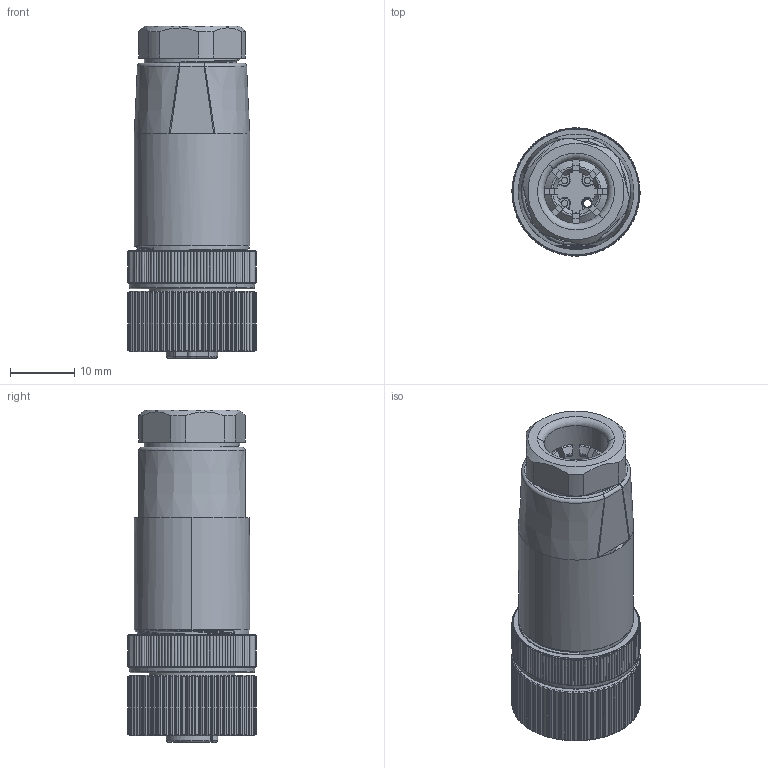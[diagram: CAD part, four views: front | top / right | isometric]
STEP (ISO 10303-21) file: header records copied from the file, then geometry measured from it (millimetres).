
FILE_DESCRIPTION((''),'2;1');
FILE_NAME('XC-M12-WK-PG9','2025-06-21T09:38:00',('lyj'),(''),'CREO PARAMETRIC BY PTC INC, 2019010','CREO PARAMETRIC BY PTC INC, 2019010','');
FILE_SCHEMA(('CONFIG_CONTROL_DESIGN'));
Products named in the file (1): XC-M12-WK-PG9
Bounding box: 20 x 20 x 51.82 mm (x, y, z)
Volume: 8561.3 mm3; surface area: 10776 mm2
Topology: 1 solids, 7 shells, 1465 faces, 3901 edges, 2495 vertices
Faces by surface type: cylinder 569, cone 425, plane 367, bspline 45, extrusion 29, torus 26, sphere 4
Entity records: 70355 total; most frequent: CARTESIAN_POINT 35542, ORIENTED_EDGE 7794, DIRECTION 6651, EDGE_CURVE 3897, AXIS2_PLACEMENT_3D 2673, VERTEX_POINT 2495, EDGE_LOOP 1544, FACE_OUTER_BOUND 1465
